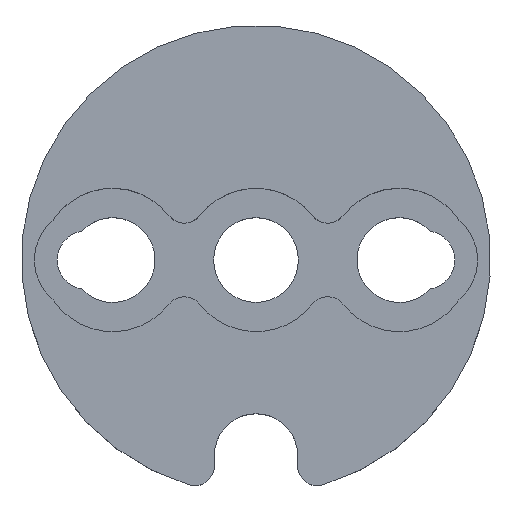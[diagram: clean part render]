
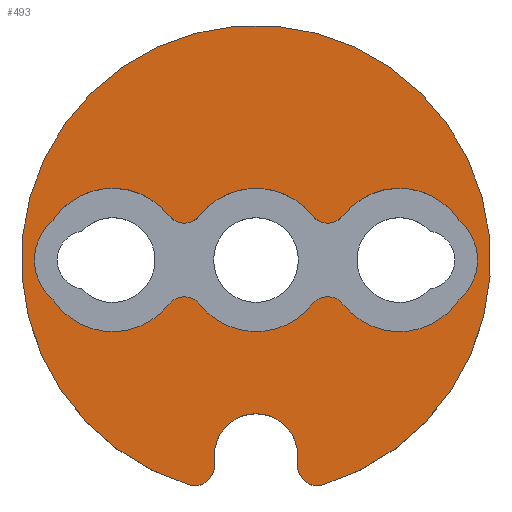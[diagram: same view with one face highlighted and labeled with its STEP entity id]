
A CAD part, top view. The second image highlights one B-rep face of the part: STEP entity #493.
In plain terms, the highlighted planar face has unit normal (0, 0, 1).
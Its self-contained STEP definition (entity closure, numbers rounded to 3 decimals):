
#84=CARTESIAN_POINT('',(6.679,3.402,6.5));
#85=VERTEX_POINT('',#84);
#92=CARTESIAN_POINT('',(4.321,3.402,6.5));
#93=VERTEX_POINT('',#92);
#94=CARTESIAN_POINT('',(5.5,4.33,6.5));
#95=DIRECTION('',(0.,0.,1.));
#96=DIRECTION('',(-0.786,-0.619,0.));
#97=AXIS2_PLACEMENT_3D('',#94,#95,#96);
#98=CIRCLE('',#97,1.5);
#99=EDGE_CURVE('',#93,#85,#98,.T.);
#126=CARTESIAN_POINT('',(6.673,-3.395,6.5));
#127=VERTEX_POINT('',#126);
#134=CARTESIAN_POINT('',(15.562,-3.071,6.5));
#135=VERTEX_POINT('',#134);
#136=CARTESIAN_POINT('',(11.0,0.,6.5));
#137=DIRECTION('',(0.,0.,-1.));
#138=DIRECTION('',(0.787,0.617,0.));
#139=AXIS2_PLACEMENT_3D('',#136,#137,#138);
#140=CIRCLE('',#139,5.5);
#141=EDGE_CURVE('',#135,#127,#140,.T.);
#166=CARTESIAN_POINT('',(15.562,3.071,6.5));
#167=VERTEX_POINT('',#166);
#174=CARTESIAN_POINT('',(11.0,0.,6.5));
#175=DIRECTION('',(0.,0.,-1.));
#176=DIRECTION('',(0.787,0.617,0.));
#177=AXIS2_PLACEMENT_3D('',#174,#175,#176);
#178=CIRCLE('',#177,5.5);
#179=EDGE_CURVE('',#85,#167,#178,.T.);
#201=CARTESIAN_POINT('',(-15.562,-3.071,6.5));
#202=VERTEX_POINT('',#201);
#209=CARTESIAN_POINT('',(-6.679,-3.402,6.5));
#210=VERTEX_POINT('',#209);
#211=CARTESIAN_POINT('',(-11.0,0.,6.5));
#212=DIRECTION('',(0.,0.,-1.0));
#213=DIRECTION('',(-0.786,-0.619,0.));
#214=AXIS2_PLACEMENT_3D('',#211,#212,#213);
#215=CIRCLE('',#214,5.5);
#216=EDGE_CURVE('',#210,#202,#215,.T.);
#241=CARTESIAN_POINT('',(4.423,-3.269,6.5));
#242=VERTEX_POINT('',#241);
#249=CARTESIAN_POINT('',(5.493,-4.321,6.5));
#250=DIRECTION('',(0.,0.,1.));
#251=DIRECTION('',(0.787,0.617,0.));
#252=AXIS2_PLACEMENT_3D('',#249,#250,#251);
#253=CIRCLE('',#252,1.5);
#254=EDGE_CURVE('',#127,#242,#253,.T.);
#274=CARTESIAN_POINT('',(-4.321,-3.402,6.5));
#275=VERTEX_POINT('',#274);
#282=CARTESIAN_POINT('',(0.,0.,6.5));
#283=DIRECTION('',(0.,0.,-1.));
#284=DIRECTION('',(0.786,0.619,0.));
#285=AXIS2_PLACEMENT_3D('',#282,#283,#284);
#286=CIRCLE('',#285,5.5);
#287=EDGE_CURVE('',#242,#275,#286,.T.);
#328=CARTESIAN_POINT('',(13.0,0.,6.5));
#329=DIRECTION('',(0.0,0.0,-1.0));
#330=DIRECTION('',(1.0,0.0,0.0));
#331=AXIS2_PLACEMENT_3D('',#328,#329,#330);
#332=CIRCLE('',#331,4.0);
#333=EDGE_CURVE('',#167,#135,#332,.T.);
#374=CARTESIAN_POINT('',(-15.562,3.071,6.5));
#375=VERTEX_POINT('',#374);
#382=CARTESIAN_POINT('',(-13.0,0.,6.5));
#383=DIRECTION('',(0.0,0.0,-1.0));
#384=DIRECTION('',(1.0,0.0,0.0));
#385=AXIS2_PLACEMENT_3D('',#382,#383,#384);
#386=CIRCLE('',#385,4.0);
#387=EDGE_CURVE('',#202,#375,#386,.T.);
#392=CARTESIAN_POINT('',(0.,-2.384,6.5));
#393=DIRECTION('',(0.0,0.0,1.0));
#394=DIRECTION('',(1.0,0.0,0.0));
#395=AXIS2_PLACEMENT_3D('',#392,#393,#394);
#396=PLANE('',#395);
#397=CARTESIAN_POINT('',(5.127,-17.254,6.5));
#398=VERTEX_POINT('',#397);
#399=CARTESIAN_POINT('',(3.2,-15.816,6.5));
#400=VERTEX_POINT('',#399);
#401=CARTESIAN_POINT('',(4.7,-15.816,6.5));
#402=DIRECTION('',(0.,0.,-1.0));
#403=DIRECTION('',(-0.598,-0.802,0.));
#404=AXIS2_PLACEMENT_3D('',#401,#402,#403);
#405=CIRCLE('',#404,1.5);
#406=EDGE_CURVE('',#398,#400,#405,.T.);
#407=ORIENTED_EDGE('',*,*,#406,.F.);
#408=CARTESIAN_POINT('',(-5.127,-17.254,6.5));
#409=VERTEX_POINT('',#408);
#410=CARTESIAN_POINT('',(0.,0.,6.5));
#411=DIRECTION('',(0.,0.,-1.));
#412=DIRECTION('',(0.178,-0.984,0.));
#413=AXIS2_PLACEMENT_3D('',#410,#411,#412);
#414=CIRCLE('',#413,18.0);
#415=EDGE_CURVE('',#409,#398,#414,.T.);
#416=ORIENTED_EDGE('',*,*,#415,.F.);
#417=CARTESIAN_POINT('',(-3.2,-15.816,6.5));
#418=VERTEX_POINT('',#417);
#419=CARTESIAN_POINT('',(-4.7,-15.816,6.5));
#420=DIRECTION('',(0.,0.,-1.0));
#421=DIRECTION('',(0.598,-0.802,0.));
#422=AXIS2_PLACEMENT_3D('',#419,#420,#421);
#423=CIRCLE('',#422,1.5);
#424=EDGE_CURVE('',#418,#409,#423,.T.);
#425=ORIENTED_EDGE('',*,*,#424,.F.);
#426=CARTESIAN_POINT('',(-3.2,-15.0,6.5));
#427=VERTEX_POINT('',#426);
#428=CARTESIAN_POINT('',(-3.2,-15.0,6.5));
#429=DIRECTION('',(0.0,-1.0,0.0));
#430=VECTOR('',#429,0.816);
#431=LINE('',#428,#430);
#432=EDGE_CURVE('',#427,#418,#431,.T.);
#433=ORIENTED_EDGE('',*,*,#432,.F.);
#434=CARTESIAN_POINT('',(3.2,-15.0,6.5));
#435=VERTEX_POINT('',#434);
#436=CARTESIAN_POINT('',(0.,-15.0,6.5));
#437=DIRECTION('',(0.0,0.0,1.0));
#438=DIRECTION('',(-1.0,0.0,0.0));
#439=AXIS2_PLACEMENT_3D('',#436,#437,#438);
#440=CIRCLE('',#439,3.2);
#441=EDGE_CURVE('',#435,#427,#440,.T.);
#442=ORIENTED_EDGE('',*,*,#441,.F.);
#443=CARTESIAN_POINT('',(3.2,-15.816,6.5));
#444=DIRECTION('',(0.0,1.0,0.0));
#445=VECTOR('',#444,0.816);
#446=LINE('',#443,#445);
#447=EDGE_CURVE('',#400,#435,#446,.T.);
#448=ORIENTED_EDGE('',*,*,#447,.F.);
#449=EDGE_LOOP('',(#407,#416,#425,#433,#442,#448));
#450=FACE_OUTER_BOUND('',#449,.T.);
#451=ORIENTED_EDGE('',*,*,#333,.T.);
#452=ORIENTED_EDGE('',*,*,#141,.T.);
#453=ORIENTED_EDGE('',*,*,#254,.T.);
#454=ORIENTED_EDGE('',*,*,#287,.T.);
#455=CARTESIAN_POINT('',(-5.5,-4.33,6.5));
#456=DIRECTION('',(0.,0.,1.));
#457=DIRECTION('',(0.786,0.619,0.));
#458=AXIS2_PLACEMENT_3D('',#455,#456,#457);
#459=CIRCLE('',#458,1.5);
#460=EDGE_CURVE('',#275,#210,#459,.T.);
#461=ORIENTED_EDGE('',*,*,#460,.T.);
#462=ORIENTED_EDGE('',*,*,#216,.T.);
#463=ORIENTED_EDGE('',*,*,#387,.T.);
#464=CARTESIAN_POINT('',(-6.679,3.402,6.5));
#465=VERTEX_POINT('',#464);
#466=CARTESIAN_POINT('',(-11.0,0.,6.5));
#467=DIRECTION('',(0.,0.,-1.0));
#468=DIRECTION('',(-0.786,-0.619,0.));
#469=AXIS2_PLACEMENT_3D('',#466,#467,#468);
#470=CIRCLE('',#469,5.5);
#471=EDGE_CURVE('',#375,#465,#470,.T.);
#472=ORIENTED_EDGE('',*,*,#471,.T.);
#473=CARTESIAN_POINT('',(-4.321,3.402,6.5));
#474=VERTEX_POINT('',#473);
#475=CARTESIAN_POINT('',(-5.5,4.33,6.5));
#476=DIRECTION('',(0.,0.,1.));
#477=DIRECTION('',(-0.786,-0.619,0.));
#478=AXIS2_PLACEMENT_3D('',#475,#476,#477);
#479=CIRCLE('',#478,1.5);
#480=EDGE_CURVE('',#465,#474,#479,.T.);
#481=ORIENTED_EDGE('',*,*,#480,.T.);
#482=CARTESIAN_POINT('',(0.,0.,6.5));
#483=DIRECTION('',(0.,0.,-1.0));
#484=DIRECTION('',(-0.786,-0.619,0.));
#485=AXIS2_PLACEMENT_3D('',#482,#483,#484);
#486=CIRCLE('',#485,5.5);
#487=EDGE_CURVE('',#474,#93,#486,.T.);
#488=ORIENTED_EDGE('',*,*,#487,.T.);
#489=ORIENTED_EDGE('',*,*,#99,.T.);
#490=ORIENTED_EDGE('',*,*,#179,.T.);
#491=EDGE_LOOP('',(#451,#452,#453,#454,#461,#462,#463,#472,#481,#488,#489,#490));
#492=FACE_BOUND('',#491,.T.);
#493=ADVANCED_FACE('',(#450,#492),#396,.T.);
